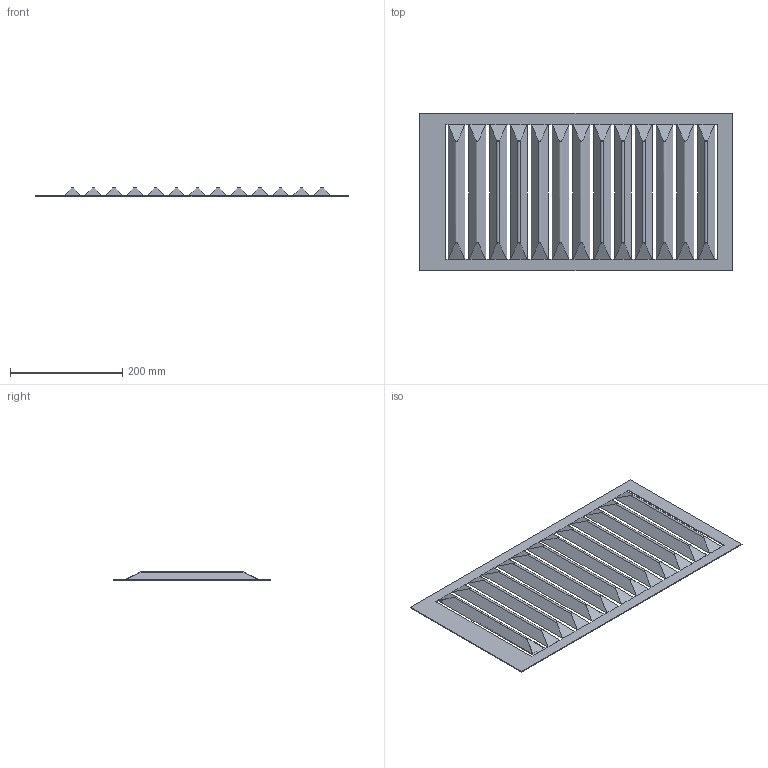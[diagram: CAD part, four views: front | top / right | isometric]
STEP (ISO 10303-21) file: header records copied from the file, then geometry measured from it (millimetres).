
FILE_DESCRIPTION(/* description */ (''),/* implementation_level */ '2;1');
FILE_NAME(/* name */ '16C00378 - Plech dvirek.stp',/* time_stamp */ '2026-06-02T14:22:24+02:00',/* author */ ('MITTNERC'),/* organization */ (''),/* preprocessor_version */ 'ST-DEVELOPER v20',/* originating_system */ 'Autodesk Inventor 2025',/* authorisation */ '');
FILE_SCHEMA (('AUTOMOTIVE_DESIGN { 1 0 10303 214 3 1 1 }'));
Length unit declared in the file: millimetre
Products named in the file (1): 16C00378 - Plech dvirek
Bounding box: 555 x 280 x 16.49 mm (x, y, z)
Volume: 713128.5 mm3; surface area: 309331.1 mm2
Topology: 14 solids, 14 shells, 93 faces, 244 edges, 180 vertices
Faces by surface type: plane 79, cylinder 14
Entity records: 2936 total; most frequent: CARTESIAN_POINT 518, ORIENTED_EDGE 488, DIRECTION 460, EDGE_CURVE 244, LINE 216, VECTOR 216, VERTEX_POINT 180, AXIS2_PLACEMENT_3D 122
